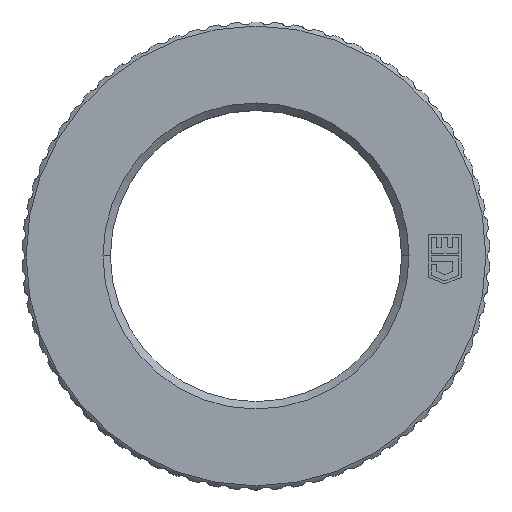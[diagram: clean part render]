
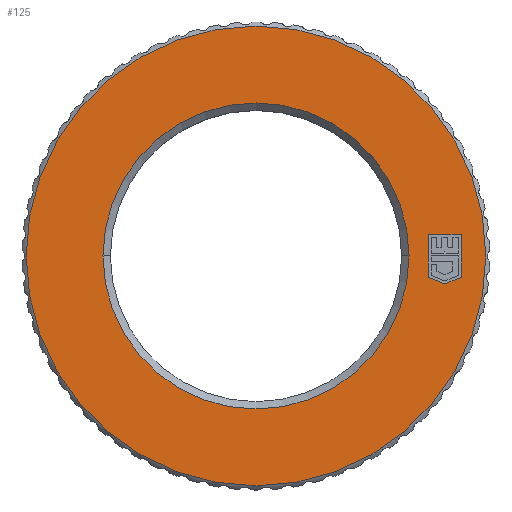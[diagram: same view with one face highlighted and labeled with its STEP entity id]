
A CAD part, top view. The second image highlights one B-rep face of the part: STEP entity #125.
In plain terms, the highlighted planar face has unit normal (0, 0, 1).
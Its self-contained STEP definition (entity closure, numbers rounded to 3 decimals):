
#10 = VERTEX_POINT ( 'NONE', #2305 ) ;
#16 = VERTEX_POINT ( 'NONE', #2334 ) ;
#90 = ORIENTED_EDGE ( 'NONE', *, *, #414, .T. ) ;
#94 = ORIENTED_EDGE ( 'NONE', *, *, #643, .T. ) ;
#101 = EDGE_LOOP ( 'NONE', ( #94, #90 ) ) ;
#121 = EDGE_CURVE ( 'NONE', #10, #16, #2639, .T. ) ;
#122 = ORIENTED_EDGE ( 'NONE', *, *, #6884, .T. ) ;
#123 = EDGE_LOOP ( 'NONE', ( #124, #122 ) ) ;
#124 = ORIENTED_EDGE ( 'NONE', *, *, #121, .T. ) ;
#125 = ADVANCED_FACE ( 'NONE', ( #2625, #2624, #2623 ), #2621, .F. ) ;
#410 = ORIENTED_EDGE ( 'NONE', *, *, #490, .T. ) ;
#411 = ORIENTED_EDGE ( 'NONE', *, *, #412, .T. ) ;
#412 = EDGE_CURVE ( 'NONE', #486, #481, #3265, .T. ) ;
#413 = EDGE_LOOP ( 'NONE', ( #410, #419, #483, #411, #484 ) ) ;
#414 = EDGE_CURVE ( 'NONE', #640, #644, #3251, .T. ) ;
#415 = VERTEX_POINT ( 'NONE', #3246 ) ;
#418 = VERTEX_POINT ( 'NONE', #3241 ) ;
#419 = ORIENTED_EDGE ( 'NONE', *, *, #488, .T. ) ;
#481 = VERTEX_POINT ( 'NONE', #3428 ) ;
#483 = ORIENTED_EDGE ( 'NONE', *, *, #487, .T. ) ;
#484 = ORIENTED_EDGE ( 'NONE', *, *, #485, .T. ) ;
#485 = EDGE_CURVE ( 'NONE', #481, #489, #3421, .T. ) ;
#486 = VERTEX_POINT ( 'NONE', #3417 ) ;
#487 = EDGE_CURVE ( 'NONE', #415, #486, #3416, .T. ) ;
#488 = EDGE_CURVE ( 'NONE', #418, #415, #3412, .T. ) ;
#489 = VERTEX_POINT ( 'NONE', #3408 ) ;
#490 = EDGE_CURVE ( 'NONE', #489, #418, #3407, .T. ) ;
#640 = VERTEX_POINT ( 'NONE', #3687 ) ;
#643 = EDGE_CURVE ( 'NONE', #644, #640, #3685, .T. ) ;
#644 = VERTEX_POINT ( 'NONE', #3742 ) ;
#2305 = CARTESIAN_POINT ( 'NONE',  ( -28., 0., 0. ) ) ;
#2334 = CARTESIAN_POINT ( 'NONE',  ( 28., 0., 0. ) ) ;
#2619 = CARTESIAN_POINT ( 'NONE',  ( 0., 0., 0. ) ) ;
#2620 = AXIS2_PLACEMENT_3D ( 'NONE', #2619, #2679, #2678 ) ;
#2621 = PLANE ( 'NONE',  #2620 ) ;
#2623 = FACE_BOUND ( 'NONE', #413, .T. ) ;
#2624 = FACE_BOUND ( 'NONE', #101, .T. ) ;
#2625 = FACE_OUTER_BOUND ( 'NONE', #123, .T. ) ;
#2626 = DIRECTION ( 'NONE',  ( 1., 0., 0. ) ) ;
#2627 = DIRECTION ( 'NONE',  ( 0., 0., 1. ) ) ;
#2638 = AXIS2_PLACEMENT_3D ( 'NONE', #2651, #2627, #2626 ) ;
#2639 = CIRCLE ( 'NONE', #2638, 28. ) ;
#2651 = CARTESIAN_POINT ( 'NONE',  ( 0., 0., 0. ) ) ;
#2678 = DIRECTION ( 'NONE',  ( -1., 0., 0. ) ) ;
#2679 = DIRECTION ( 'NONE',  ( 0., 0., -1. ) ) ;
#3241 = CARTESIAN_POINT ( 'NONE',  ( 21., -2.582, 0. ) ) ;
#3246 = CARTESIAN_POINT ( 'NONE',  ( 21., 2.59, 0. ) ) ;
#3247 = DIRECTION ( 'NONE',  ( -1., 0., 0. ) ) ;
#3248 = DIRECTION ( 'NONE',  ( 0., 0., -1. ) ) ;
#3249 = CARTESIAN_POINT ( 'NONE',  ( 0., 0., 0. ) ) ;
#3250 = AXIS2_PLACEMENT_3D ( 'NONE', #3249, #3248, #3247 ) ;
#3251 = CIRCLE ( 'NONE', #3250, 18.64 ) ;
#3262 = DIRECTION ( 'NONE',  ( 0., -1., 0. ) ) ;
#3263 = VECTOR ( 'NONE', #3262, 1000. ) ;
#3264 = CARTESIAN_POINT ( 'NONE',  ( 25., 2.59, 0. ) ) ;
#3265 = LINE ( 'NONE', #3264, #3263 ) ;
#3404 = DIRECTION ( 'NONE',  ( -0.924, 0.383, 0. ) ) ;
#3405 = VECTOR ( 'NONE', #3404, 1000. ) ;
#3406 = CARTESIAN_POINT ( 'NONE',  ( 23., -3.41, 0. ) ) ;
#3407 = LINE ( 'NONE', #3406, #3405 ) ;
#3408 = CARTESIAN_POINT ( 'NONE',  ( 23., -3.41, 0. ) ) ;
#3409 = DIRECTION ( 'NONE',  ( 0., 1., 0. ) ) ;
#3410 = VECTOR ( 'NONE', #3409, 1000. ) ;
#3411 = CARTESIAN_POINT ( 'NONE',  ( 21., -2.582, 0. ) ) ;
#3412 = LINE ( 'NONE', #3411, #3410 ) ;
#3413 = DIRECTION ( 'NONE',  ( 1., 0., 0. ) ) ;
#3414 = VECTOR ( 'NONE', #3413, 1000. ) ;
#3415 = CARTESIAN_POINT ( 'NONE',  ( 21., 2.59, 0. ) ) ;
#3416 = LINE ( 'NONE', #3415, #3414 ) ;
#3417 = CARTESIAN_POINT ( 'NONE',  ( 25., 2.59, 0. ) ) ;
#3418 = DIRECTION ( 'NONE',  ( -0.924, -0.383, 0. ) ) ;
#3419 = VECTOR ( 'NONE', #3418, 1000. ) ;
#3420 = CARTESIAN_POINT ( 'NONE',  ( 23., -3.41, 0. ) ) ;
#3421 = LINE ( 'NONE', #3420, #3419 ) ;
#3428 = CARTESIAN_POINT ( 'NONE',  ( 25., -2.582, 0. ) ) ;
#3683 = CARTESIAN_POINT ( 'NONE',  ( 0., 0., 0. ) ) ;
#3684 = AXIS2_PLACEMENT_3D ( 'NONE', #3683, #3744, #3743 ) ;
#3685 = CIRCLE ( 'NONE', #3684, 18.64 ) ;
#3687 = CARTESIAN_POINT ( 'NONE',  ( -18.64, 0., 0. ) ) ;
#3742 = CARTESIAN_POINT ( 'NONE',  ( 18.64, 0., 0. ) ) ;
#3743 = DIRECTION ( 'NONE',  ( -1., 0., 0. ) ) ;
#3744 = DIRECTION ( 'NONE',  ( 0., 0., -1. ) ) ;
#6547 = CIRCLE ( 'NONE', #6559, 28. ) ;
#6558 = CARTESIAN_POINT ( 'NONE',  ( 0., 0., 0. ) ) ;
#6559 = AXIS2_PLACEMENT_3D ( 'NONE', #6558, #6611, #6610 ) ;
#6610 = DIRECTION ( 'NONE',  ( 1., 0., 0. ) ) ;
#6611 = DIRECTION ( 'NONE',  ( 0., 0., 1. ) ) ;
#6884 = EDGE_CURVE ( 'NONE', #16, #10, #6547, .T. ) ;
